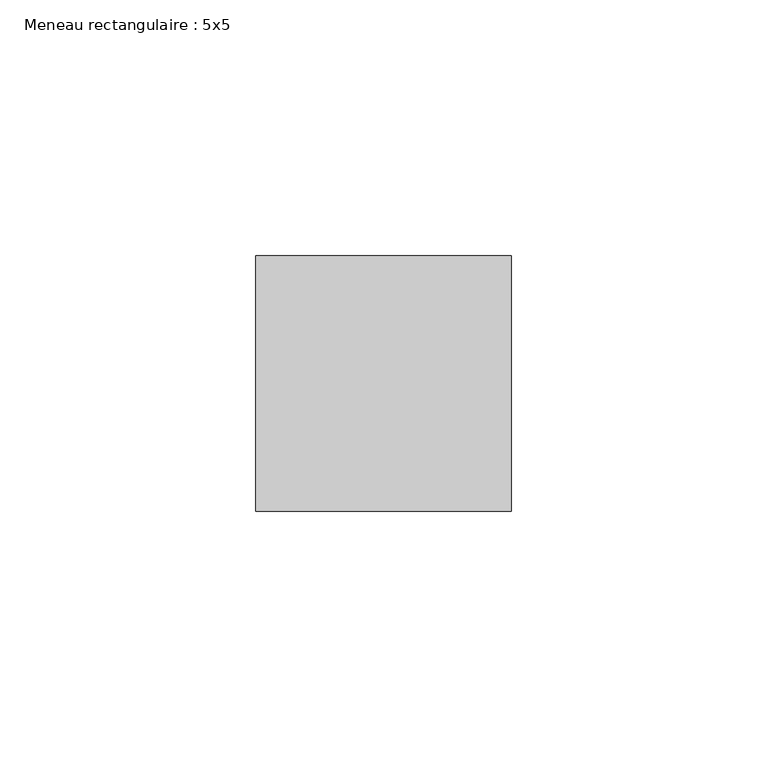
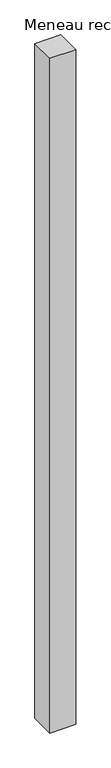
"""IFC4 building model written with IfcOpenShell, lengths in millimetres: member geometry, Meneau rectangulaire : 5x5."""

import ifcopenshell
import ifcopenshell.guid

model = None  # the IFC model being written
_history = None  # IfcOwnerHistory: only IFC2X3 demands one
_inside = {}  # id of a spatial element -> (the spatial element, [elements in it])
_under = {}  # id of a project, library or spatial element -> (it, [spatial elements below it])
_declared = {}  # id of a project -> (the project, [libraries it declares])
_typed = {}  # id of a type object -> (the type object, [elements of that type])
_made_of = {}  # id of a material, layer set ... -> (it, [elements and type objects made of it])


def new_model(schema):
    """Start an empty IFC model of exactly this schema.

    Asked for "IFC4X3", IfcOpenShell would pick the latest addendum, in which some entities
    have other attributes; the version numbers below select the first issue.
    IFC2X3 requires an IfcOwnerHistory on every rooted entity: one is made here for all.
    """
    global model, _history
    if schema == "IFC4X3":
        model = ifcopenshell.file(schema_version=(4, 3, 0, 0))
    else:
        model = ifcopenshell.file(schema=schema)
    _inside.clear()
    _under.clear()
    _declared.clear()
    _typed.clear()
    _made_of.clear()
    _history = None
    if model.schema == "IFC2X3":
        org = make("IfcOrganization", Name="unknown")
        user = make(
            "IfcPersonAndOrganization",
            ThePerson=make("IfcPerson", FamilyName="unknown"),
            TheOrganization=org,
        )
        app = make(
            "IfcApplication",
            ApplicationDeveloper=org,
            Version="unknown",
            ApplicationFullName="unknown",
            ApplicationIdentifier="unknown",
        )
        _history = make(
            "IfcOwnerHistory",
            OwningUser=user,
            OwningApplication=app,
            ChangeAction="ADDED",
            CreationDate=0,
        )
    return model


def make(cls, **values):
    """One entity of the class cls with the attributes given. An attribute that is None is left unset."""
    return model.create_entity(
        cls, **{name: value for name, value in values.items() if value is not None}
    )


def rooted(cls, **values):
    """An entity with a GlobalId (a new one), such as an element, a storey or a relation."""
    return make(cls, GlobalId=ifcopenshell.guid.new(), OwnerHistory=_history, **values)


def si_unit(unit_type, name, prefix=None):
    """IfcSIUnit, for example si_unit("LENGTHUNIT", "METRE", prefix="MILLI")."""
    return make("IfcSIUnit", UnitType=unit_type, Prefix=prefix, Name=name)


def assignment(units):
    """IfcUnitAssignment: the units of a project."""
    return None if units is None else make("IfcUnitAssignment", Units=units)


def point(xyz):
    """IfcCartesianPoint."""
    return None if xyz is None else make("IfcCartesianPoint", Coordinates=xyz)


def direction(xyz):
    """IfcDirection."""
    return None if xyz is None else make("IfcDirection", DirectionRatios=xyz)


def frame(location, z_axis=None, x_axis=None):
    """IfcAxis2Placement3D, a coordinate frame: its origin and axes. An axis left out is left unset."""
    return make(
        "IfcAxis2Placement3D",
        Location=point(location),
        Axis=direction(z_axis),
        RefDirection=direction(x_axis),
    )


def origin():
    """The frame at (0, 0, 0) with its axes left unset."""
    return frame((0.0, 0.0, 0.0))


def place(relative_to, where):
    """IfcLocalPlacement: puts the frame where relative to a parent placement (None: the world)."""
    return make(
        "IfcLocalPlacement", PlacementRelTo=relative_to, RelativePlacement=where
    )


def context(
    kind, dimensions, precision=None, world=None, true_north=None, identifier=None
):
    """IfcGeometricRepresentationContext, for example the 3D "Model" context."""
    return make(
        "IfcGeometricRepresentationContext",
        ContextIdentifier=identifier,
        ContextType=kind,
        CoordinateSpaceDimension=dimensions,
        Precision=precision,
        WorldCoordinateSystem=world,
        TrueNorth=true_north,
    )


def project(units=None, contexts=None):
    """IfcProject with its units and contexts."""
    return rooted(
        "IfcProject",
        Name="project",
        RepresentationContexts=contexts,
        UnitsInContext=assignment(units),
    )


def spatial(cls, under=None, at=None, **own):
    """A site, building, storey or space (cls), placed at a placement, below another one or the project."""
    s = rooted(cls, ObjectPlacement=at, **own)
    if under is not None:
        _under.setdefault(under.id(), (under, []))[1].append(s)
    return s


def polyline(points):
    """IfcPolyline through the points."""
    return make("IfcPolyline", Points=[point(p) for p in points])


def outline(outer, holes=None, kind="AREA"):
    """IfcArbitraryClosedProfileDef: a profile drawn as a closed curve; with holes, ...WithVoids."""
    if holes is None:
        return make("IfcArbitraryClosedProfileDef", ProfileType=kind, OuterCurve=outer)
    return make(
        "IfcArbitraryProfileDefWithVoids",
        ProfileType=kind,
        OuterCurve=outer,
        InnerCurves=holes,
    )


def extrude(swept, where, along, depth):
    """IfcExtrudedAreaSolid: the profile swept, set in the frame where, extruded along a direction by depth."""
    return make(
        "IfcExtrudedAreaSolid",
        SweptArea=swept,
        Position=where,
        ExtrudedDirection=direction(along),
        Depth=depth,
    )


def shape(context_of_items, identifier, shape_type, items):
    """IfcShapeRepresentation: the items that make up one representation, for example the "Body"."""
    return make(
        "IfcShapeRepresentation",
        ContextOfItems=context_of_items,
        RepresentationIdentifier=identifier,
        RepresentationType=shape_type,
        Items=items,
    )


def source(mapping_origin, context_of_items, identifier, shape_type, items):
    """IfcRepresentationMap: a shape defined once, which mapped items show again and again."""
    return make(
        "IfcRepresentationMap",
        MappingOrigin=mapping_origin,
        MappedRepresentation=shape(context_of_items, identifier, shape_type, items),
    )


def transform(
    local_origin,
    x_axis=None,
    y_axis=None,
    z_axis=None,
    scale=None,
    scale2=None,
    scale3=None,
    uniform=True,
):
    """IfcCartesianTransformationOperator3D, or its non-uniform kind. x_axis, y_axis, z_axis: its Axis1, 2, 3."""
    if uniform:
        return make(
            "IfcCartesianTransformationOperator3D",
            Axis1=direction(x_axis),
            Axis2=direction(y_axis),
            LocalOrigin=point(local_origin),
            Scale=scale,
            Axis3=direction(z_axis),
        )
    return make(
        "IfcCartesianTransformationOperator3DnonUniform",
        Axis1=direction(x_axis),
        Axis2=direction(y_axis),
        LocalOrigin=point(local_origin),
        Scale=scale,
        Axis3=direction(z_axis),
        Scale2=scale2,
        Scale3=scale3,
    )


def mapped(mapping_source, mapping_target):
    """IfcMappedItem: shows the shape of a source again, moved by a transform."""
    return make(
        "IfcMappedItem", MappingSource=mapping_source, MappingTarget=mapping_target
    )


def made_of(thing, what):
    """Note that an element or type object is made of a material, layer set ...; save() writes the relation."""
    if what is not None:
        _made_of.setdefault(what.id(), (what, []))[1].append(thing)
    return thing


def element(
    cls,
    number,
    at=None,
    inside=None,
    cuts=None,
    type_object=None,
    material=None,
    context=None,
    identifier="Body",
    shape_type=None,
    held_by="IfcProductDefinitionShape",
    body=None,
    shapes=None,
    **own,
):
    """One element of the class cls, such as IfcWall. Its Tag is "e" and its number.

    at: its placement. inside: the storey or other place that contains it. cuts: it is an
    opening in that element (IfcRelVoidsElement). A single representation is given by context,
    identifier, shape_type and body (its items); several are given by shapes. held_by: the class
    of the entity that holds the representations. save() writes the other relations.
    """
    e = rooted(cls, Tag="e%d" % number, ObjectPlacement=at, **own)
    if body is not None:
        shapes = [shape(context, identifier, shape_type, body)]
    if shapes is not None:
        e.Representation = make(held_by, Representations=shapes)
    if inside is not None:
        _inside.setdefault(inside.id(), (inside, []))[1].append(e)
    if cuts is not None:
        rooted(
            "IfcRelVoidsElement", RelatingBuildingElement=cuts, RelatedOpeningElement=e
        )
    if type_object is not None:
        _typed.setdefault(type_object.id(), (type_object, []))[1].append(e)
    return made_of(e, material)


def aggregate(whole, parts):
    """IfcRelAggregates: a whole, such as a stair, and the parts it consists of."""
    return rooted("IfcRelAggregates", RelatingObject=whole, RelatedObjects=parts)


def save(model, path):
    """Write the relations noted so far, then the file.

    IfcRelAggregates (storeys below a building ...), IfcRelContainedInSpatialStructure (elements
    in a storey), IfcRelDefinesByType, IfcRelAssociatesMaterial and IfcRelDeclares: one each for
    every whole, place, type object, material and project.
    """
    for whole, parts in _under.values():
        aggregate(whole, parts)
    for where, things in _inside.values():
        rooted(
            "IfcRelContainedInSpatialStructure",
            RelatedElements=things,
            RelatingStructure=where,
        )
    for kind, things in _typed.values():
        rooted("IfcRelDefinesByType", RelatedObjects=things, RelatingType=kind)
    for what, things in _made_of.values():
        rooted("IfcRelAssociatesMaterial", RelatedObjects=things, RelatingMaterial=what)
    for by, libraries in _declared.values():
        rooted("IfcRelDeclares", RelatingContext=by, RelatedDefinitions=libraries)
    model.write(path)


def meneau_rectangulaire_5x5_b3485d50(model_context):
    return source(origin(), model_context, "Body", "SweptSolid", [
        extrude(outline(polyline([(25.0, 25.0), (25.0, -25.0), (-25.0, -25.0), (-25.0, 25.0), (25.0, 25.0)])), frame((0.0, 0.0, -1370.75), z_axis=(0.0, 0.0, 1.0), x_axis=(1.0, 0.0, 0.0)), (0.0, 0.0, 1.0), 1370.75),
    ])


if __name__ == "__main__":
    model = new_model("IFC4")
    model_context = context("Model", 3, world=origin())
    ifc_project = project(units=[si_unit("LENGTHUNIT", "METRE", prefix="MILLI")], contexts=[model_context])
    site = spatial("IfcSite", under=ifc_project)
    building = spatial("IfcBuilding", under=site)
    placement = place(None, origin())
    meneau_rectangulaire_5x5_shape = meneau_rectangulaire_5x5_b3485d50(model_context)
    element("IfcMember", 1, ObjectType="Meneau rectangulaire : 5x5", at=placement, inside=building, context=model_context, shape_type="MappedRepresentation", body=[
        mapped(meneau_rectangulaire_5x5_shape, transform((0.0, 0.0, 0.0), x_axis=(1.0, 0.0, 0.0), y_axis=(0.0, 1.0, 0.0), z_axis=(0.0, 0.0, 1.0))),
    ])
    save(model, "model.ifc")
